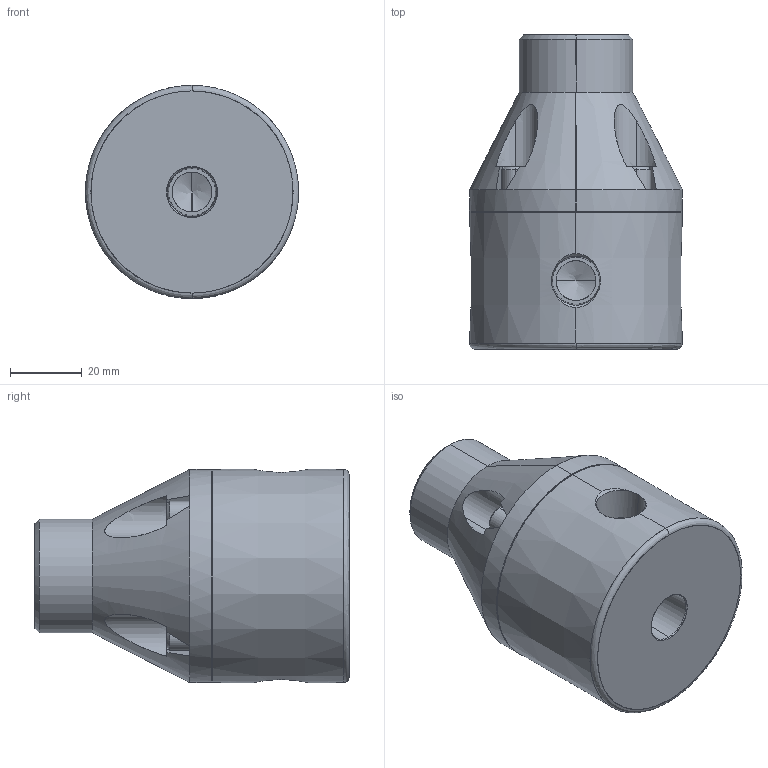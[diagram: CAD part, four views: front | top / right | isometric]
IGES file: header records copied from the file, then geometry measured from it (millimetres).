
Start section: SolidWorks IGES file using analytic representation for surfaces
Global section: file name: F:\Griffco-Valve\Griffco_current-projects\GV_web-files_2015\M Series\MPR0250-NPT.IGS; native system: SolidWorks 2008; preprocessor: SolidWorks 2008; author: Dan; date: 150407.210049; units: inch
Bounding box: 59.44 x 87.63 x 59.44 mm (x, y, z)
Surface area: 24400.4 mm2 (no closed solid volume)
Topology: 0 solids, 0 shells, 139 faces, 2032 edges, 2026 vertices
Faces by surface type: bspline 73, revolution 66
